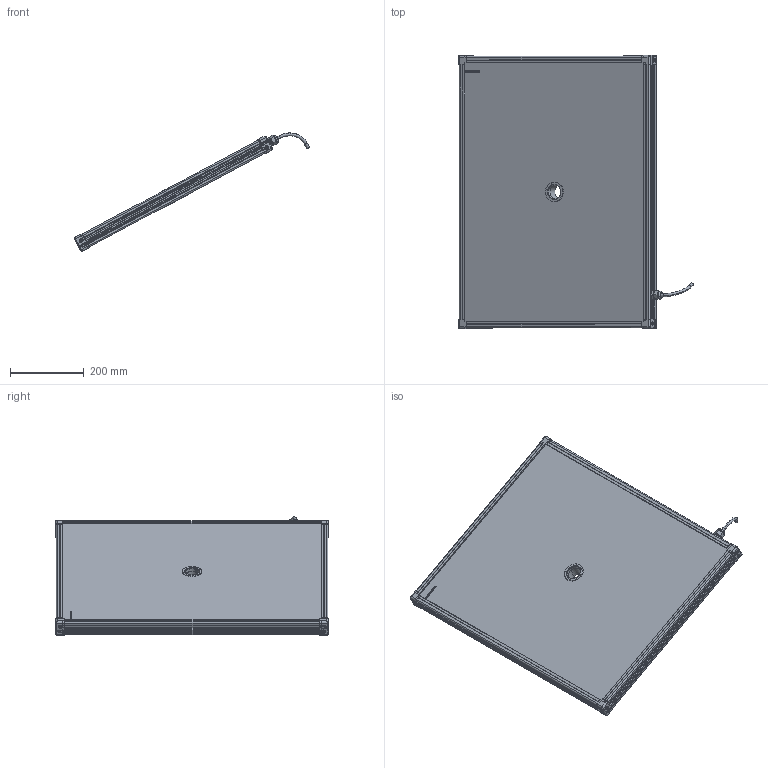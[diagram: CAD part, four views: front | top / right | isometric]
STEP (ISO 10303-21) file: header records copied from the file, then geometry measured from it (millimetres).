
FILE_DESCRIPTION (( 'STEP AP214' ), '1' );
FILE_NAME ('EFFI-FD-550-700-ZZZ-1M12P.STEP', '2021-06-22T07:58:32', ( '' ), ( '' ), 'SwSTEP 2.0', 'SolidWorks 2021', '' );
FILE_SCHEMA (( 'AUTOMOTIVE_DESIGN' ));
Length unit declared in the file: millimetre
Products named in the file (13): M12 power_AVEC CABLE D8.1; 000590; 001036; profile Y_PERCE; EFFI-FD-550-700-ZZZ-1M12P; petite joue + vis; profile X_PERCE; Pièce13^EFFI-FD-XXX-YYY-ZZZ (1 connecteur) M12POWER Ø39; 001035; assemblage Ø39; 000629; petite joue
Assembly tree (19 placements, depth 3):
  EFFI-FD-550-700-ZZZ-1M12P
    profile X_PERCE  x2
    profile Y_PERCE
    profile Y_PERCE
    Pièce13^EFFI-FD-XXX-YYY-ZZZ (1 connecteur) M12POWER Ø39
    petite joue + vis  x4
      petite joue
      000629
    M12 power_AVEC CABLE D8.1
    assemblage Ø39
      001036
      000590  x3
      001035
Bounding box: 635.41 x 739 x 320.39 mm (x, y, z)
Volume: 15062116.6 mm3; surface area: 1277866.1 mm2
Topology: 22 solids, 25 shells, 3896 faces, 10381 edges, 6830 vertices
Faces by surface type: plane 2438, cylinder 691, bspline 591, cone 154, torus 22
Entity records: 54477 total; most frequent: CARTESIAN_POINT 22298, ORIENTED_EDGE 6752, DIRECTION 5429, EDGE_CURVE 3378, LINE 2403, VECTOR 2403, VERTEX_POINT 2231, AXIS2_PLACEMENT_3D 1513
